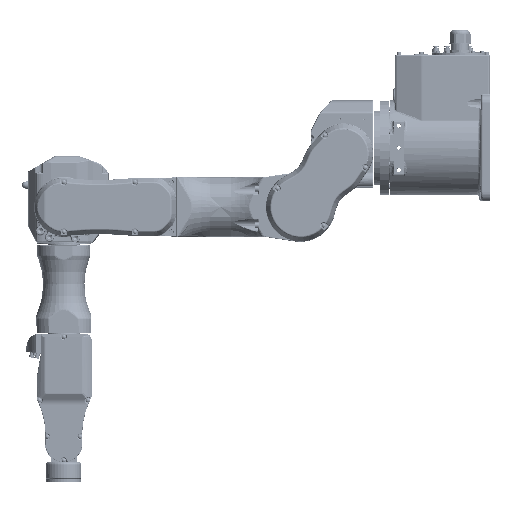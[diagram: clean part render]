
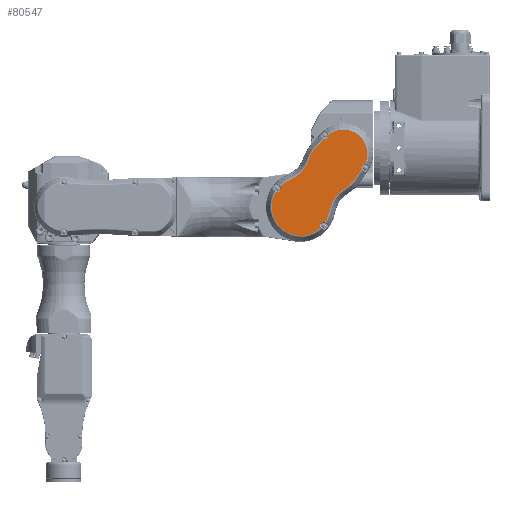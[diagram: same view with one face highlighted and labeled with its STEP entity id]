
A CAD part, left-side view. The second image highlights one B-rep face of the part: STEP entity #80547.
In plain terms, the highlighted planar face has unit normal (-1, 0, 0) as drawn and (0, 0, 1) by its records, which use the part's own axes.
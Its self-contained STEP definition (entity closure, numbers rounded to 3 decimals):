
#65883=CARTESIAN_POINT('',(-27.471,211.181,
99.));
#66167=CARTESIAN_POINT('',(20.878,279.004,99.));
#66168=DIRECTION('',(0.,0.,-1.));
#66169=DIRECTION('',(0.201,-0.98,0.));
#66170=AXIS2_PLACEMENT_3D('',#66167,#66168,#66169);
#66172=CARTESIAN_POINT('',(-10.,248.,99.));
#66173=DIRECTION('',(0.,0.,1.));
#66174=DIRECTION('',(-0.429,-0.903,0.));
#66175=AXIS2_PLACEMENT_3D('',#66172,#66173,#66174);
#66177=CARTESIAN_POINT('',(-33.47,211.069,99.));
#66178=DIRECTION('',(0.,0.,-1.));
#66179=DIRECTION('',(-0.433,0.902,0.));
#66180=AXIS2_PLACEMENT_3D('',#66177,#66178,#66179);
#66182=DIRECTION('',(0.822,-0.569,0.));
#66183=VECTOR('',#66182,23.24);
#66184=CARTESIAN_POINT('',(-55.178,229.701,99.));
#66185=LINE('',#66184,#66183);
#66186=CARTESIAN_POINT('',(-31.989,263.215,99.));
#66187=DIRECTION('',(0.,0.,1.));
#66188=DIRECTION('',(-0.816,-0.578,0.));
#66189=AXIS2_PLACEMENT_3D('',#66186,#66187,#66188);
#66191=DIRECTION('',(0.578,-0.816,0.));
#66192=VECTOR('',#66191,12.664);
#66193=CARTESIAN_POINT('',(-72.563,249.986,99.));
#66194=LINE('',#66193,#66192);
#66195=CARTESIAN_POINT('',(-112.745,221.514,99.));
#66196=DIRECTION('',(0.,0.,-1.));
#66197=DIRECTION('',(0.287,0.958,0.));
#66198=AXIS2_PLACEMENT_3D('',#66195,#66196,#66197);
#66200=DIRECTION('',(0.958,-0.287,0.));
#66201=VECTOR('',#66200,16.059);
#66202=CARTESIAN_POINT('',(-113.993,273.298,99.));
#66203=LINE('',#66202,#66201);
#66204=CARTESIAN_POINT('',(-100.,320.,99.));
#66205=DIRECTION('',(0.,0.,1.));
#66206=DIRECTION('',(-0.528,-0.849,0.));
#66207=AXIS2_PLACEMENT_3D('',#66204,#66205,#66206);
#66209=CARTESIAN_POINT('',(-131.235,280.957,99.));
#66210=DIRECTION('',(0.,0.,-1.));
#66211=DIRECTION('',(-0.587,0.809,0.));
#66212=AXIS2_PLACEMENT_3D('',#66209,#66210,#66211);
#66214=CARTESIAN_POINT('',(-100.,320.,99.));
#66215=DIRECTION('',(0.,0.,1.));
#66216=DIRECTION('',(0.528,0.849,0.));
#66217=AXIS2_PLACEMENT_3D('',#66214,#66215,#66216);
#66219=CARTESIAN_POINT('',(-68.765,359.043,99.));
#66220=DIRECTION('',(0.,0.,-1.));
#66221=DIRECTION('',(0.587,-0.809,0.));
#66222=AXIS2_PLACEMENT_3D('',#66219,#66220,#66221);
#66224=CARTESIAN_POINT('',(-100.,320.,99.));
#66225=DIRECTION('',(0.,0.,1.));
#66226=DIRECTION('',(0.872,0.49,0.));
#66227=AXIS2_PLACEMENT_3D('',#66224,#66225,#66226);
#66229=DIRECTION('',(-0.49,0.872,0.));
#66230=VECTOR('',#66229,16.059);
#66231=CARTESIAN_POINT('',(-49.635,329.907,99.));
#66232=LINE('',#66231,#66230);
#66233=CARTESIAN_POINT('',(-6.714,354.053,99.));
#66234=DIRECTION('',(0.,0.,-1.));
#66235=DIRECTION('',(-0.385,-0.923,0.));
#66236=AXIS2_PLACEMENT_3D('',#66233,#66234,#66235);
#66238=DIRECTION('',(-0.923,0.385,0.));
#66239=VECTOR('',#66238,12.664);
#66240=CARTESIAN_POINT('',(-13.983,303.726,99.));
#66241=LINE('',#66240,#66239);
#66242=CARTESIAN_POINT('',(-29.671,266.113,99.));
#66243=DIRECTION('',(0.,0.,1.));
#66244=DIRECTION('',(0.677,0.736,0.));
#66245=AXIS2_PLACEMENT_3D('',#66242,#66243,#66244);
#66247=DIRECTION('',(-0.736,0.677,0.));
#66248=VECTOR('',#66247,23.24);
#66249=CARTESIAN_POINT('',(15.031,280.35,99.));
#66250=LINE('',#66249,#66248);
#66261=CARTESIAN_POINT('',(15.031,280.35,99.));
#66388=CARTESIAN_POINT('',(-74.277,361.415,
99.));
#66431=CARTESIAN_POINT('',(-125.723,278.585,
99.));
#77053=CARTESIAN_POINT('',(-49.635,329.907,99.));
#77054=CARTESIAN_POINT('',(-57.509,343.904,99.));
#77055=VERTEX_POINT('',#77053);
#77056=VERTEX_POINT('',#77054);
#77061=CARTESIAN_POINT('',(-25.671,308.601,99.));
#77062=VERTEX_POINT('',#77061);
#77065=CARTESIAN_POINT('',(-13.983,303.726,99.));
#77066=VERTEX_POINT('',#77065);
#77069=CARTESIAN_POINT('',(-2.065,296.093,99.));
#77070=VERTEX_POINT('',#77069);
#77073=CARTESIAN_POINT('',(-65.242,239.653,99.));
#77074=CARTESIAN_POINT('',(-55.178,229.701,99.));
#77075=VERTEX_POINT('',#77073);
#77076=VERTEX_POINT('',#77074);
#77081=CARTESIAN_POINT('',(-72.563,249.986,99.));
#77082=VERTEX_POINT('',#77081);
#77085=CARTESIAN_POINT('',(-98.61,268.689,99.));
#77086=VERTEX_POINT('',#77085);
#77089=CARTESIAN_POINT('',(-113.993,273.298,99.));
#77090=VERTEX_POINT('',#77089);
#77097=VERTEX_POINT('',#66261);
#77099=CARTESIAN_POINT('',(22.085,273.127,99.));
#77100=VERTEX_POINT('',#77099);
#77111=VERTEX_POINT('',#65883);
#77113=CARTESIAN_POINT('',(-36.066,216.478,99.));
#77114=VERTEX_POINT('',#77113);
#77125=VERTEX_POINT('',#66431);
#77127=CARTESIAN_POINT('',(-134.758,285.813,99.));
#77128=VERTEX_POINT('',#77127);
#77139=VERTEX_POINT('',#66388);
#77141=CARTESIAN_POINT('',(-65.242,354.187,99.));
#77142=VERTEX_POINT('',#77141);
#80507=CARTESIAN_POINT('',(0.,198.,99.));
#80508=DIRECTION('',(0.,0.,1.));
#80509=DIRECTION('',(1.,0.,0.));
#80510=AXIS2_PLACEMENT_3D('',#80507,#80508,#80509);
#80511=PLANE('',#80510);
#80513=ORIENTED_EDGE('',*,*,#80512,.F.);
#80514=ORIENTED_EDGE('',*,*,#79588,.F.);
#80516=ORIENTED_EDGE('',*,*,#80515,.F.);
#80517=ORIENTED_EDGE('',*,*,#80473,.F.);
#80518=ORIENTED_EDGE('',*,*,#80490,.F.);
#80520=ORIENTED_EDGE('',*,*,#80519,.F.);
#80522=ORIENTED_EDGE('',*,*,#80521,.F.);
#80524=ORIENTED_EDGE('',*,*,#80523,.F.);
#80526=ORIENTED_EDGE('',*,*,#80525,.F.);
#80528=ORIENTED_EDGE('',*,*,#80527,.F.);
#80530=ORIENTED_EDGE('',*,*,#80529,.F.);
#80532=ORIENTED_EDGE('',*,*,#80531,.F.);
#80534=ORIENTED_EDGE('',*,*,#80533,.F.);
#80536=ORIENTED_EDGE('',*,*,#80535,.F.);
#80538=ORIENTED_EDGE('',*,*,#80537,.F.);
#80540=ORIENTED_EDGE('',*,*,#80539,.F.);
#80542=ORIENTED_EDGE('',*,*,#80541,.F.);
#80544=ORIENTED_EDGE('',*,*,#80543,.F.);
#80545=EDGE_LOOP('',(#80513,#80514,#80516,#80517,#80518,#80520,#80522,#80524,
#80526,#80528,#80530,#80532,#80534,#80536,#80538,#80540,#80542,#80544));
#80546=FACE_OUTER_BOUND('',#80545,.F.);
#80547=ADVANCED_FACE('',(#80546),#80511,.T.);
#66171=CIRCLE('',#66170,6.);
#66176=CIRCLE('',#66175,40.753);
#66181=CIRCLE('',#66180,6.);
#66190=CIRCLE('',#66189,40.753);
#66199=CIRCLE('',#66198,49.247);
#66208=CIRCLE('',#66207,48.753);
#66213=CIRCLE('',#66212,6.);
#66218=CIRCLE('',#66217,48.753);
#66223=CIRCLE('',#66222,6.);
#66228=CIRCLE('',#66227,48.753);
#66237=CIRCLE('',#66236,49.247);
#66246=CIRCLE('',#66245,40.753);
#79588=EDGE_CURVE('',#77111,#77100,#66176,.T.);
#80473=EDGE_CURVE('',#77076,#77114,#66185,.T.);
#80490=EDGE_CURVE('',#77075,#77076,#66190,.T.);
#80512=EDGE_CURVE('',#77100,#77097,#66171,.T.);
#80515=EDGE_CURVE('',#77114,#77111,#66181,.T.);
#80519=EDGE_CURVE('',#77082,#77075,#66194,.T.);
#80521=EDGE_CURVE('',#77086,#77082,#66199,.T.);
#80523=EDGE_CURVE('',#77090,#77086,#66203,.T.);
#80525=EDGE_CURVE('',#77125,#77090,#66208,.T.);
#80527=EDGE_CURVE('',#77128,#77125,#66213,.T.);
#80529=EDGE_CURVE('',#77139,#77128,#66218,.T.);
#80531=EDGE_CURVE('',#77142,#77139,#66223,.T.);
#80533=EDGE_CURVE('',#77056,#77142,#66228,.T.);
#80535=EDGE_CURVE('',#77055,#77056,#66232,.T.);
#80537=EDGE_CURVE('',#77062,#77055,#66237,.T.);
#80539=EDGE_CURVE('',#77066,#77062,#66241,.T.);
#80541=EDGE_CURVE('',#77070,#77066,#66246,.T.);
#80543=EDGE_CURVE('',#77097,#77070,#66250,.T.);
